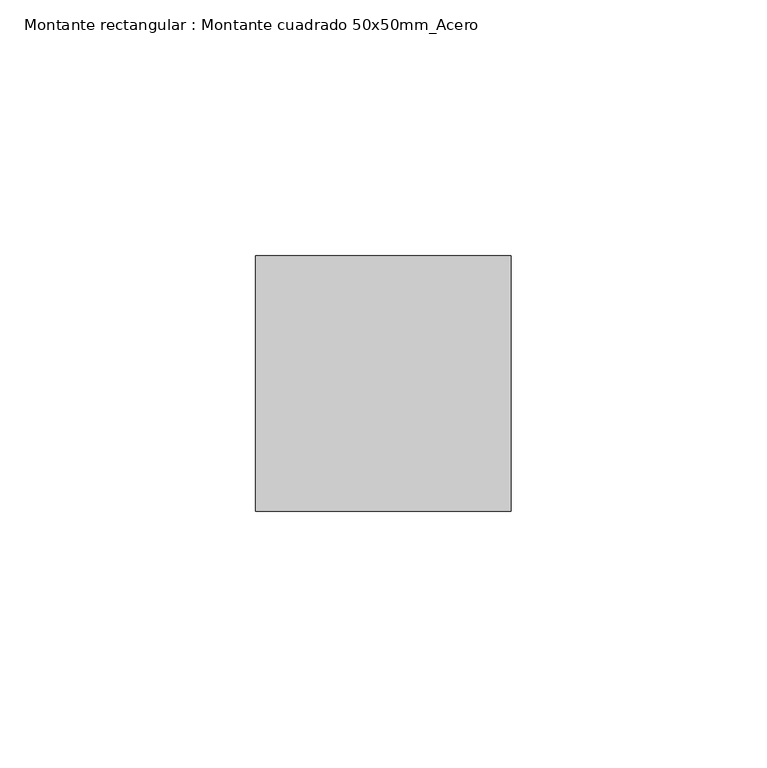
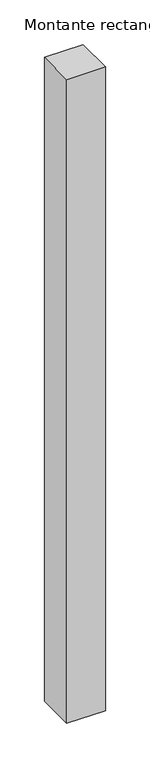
"""IFC4 building model written with IfcOpenShell, lengths in millimetres: member geometry, Montante rectangular : Montante cuadrado 50x50mm_Acero."""

import ifcopenshell
import ifcopenshell.guid

model = None  # the IFC model being written
_history = None  # IfcOwnerHistory: only IFC2X3 demands one
_inside = {}  # id of a spatial element -> (the spatial element, [elements in it])
_under = {}  # id of a project, library or spatial element -> (it, [spatial elements below it])
_declared = {}  # id of a project -> (the project, [libraries it declares])
_typed = {}  # id of a type object -> (the type object, [elements of that type])
_made_of = {}  # id of a material, layer set ... -> (it, [elements and type objects made of it])


def new_model(schema):
    """Start an empty IFC model of exactly this schema.

    Asked for "IFC4X3", IfcOpenShell would pick the latest addendum, in which some entities
    have other attributes; the version numbers below select the first issue.
    IFC2X3 requires an IfcOwnerHistory on every rooted entity: one is made here for all.
    """
    global model, _history
    if schema == "IFC4X3":
        model = ifcopenshell.file(schema_version=(4, 3, 0, 0))
    else:
        model = ifcopenshell.file(schema=schema)
    _inside.clear()
    _under.clear()
    _declared.clear()
    _typed.clear()
    _made_of.clear()
    _history = None
    if model.schema == "IFC2X3":
        org = make("IfcOrganization", Name="unknown")
        user = make(
            "IfcPersonAndOrganization",
            ThePerson=make("IfcPerson", FamilyName="unknown"),
            TheOrganization=org,
        )
        app = make(
            "IfcApplication",
            ApplicationDeveloper=org,
            Version="unknown",
            ApplicationFullName="unknown",
            ApplicationIdentifier="unknown",
        )
        _history = make(
            "IfcOwnerHistory",
            OwningUser=user,
            OwningApplication=app,
            ChangeAction="ADDED",
            CreationDate=0,
        )
    return model


def make(cls, **values):
    """One entity of the class cls with the attributes given. An attribute that is None is left unset."""
    return model.create_entity(
        cls, **{name: value for name, value in values.items() if value is not None}
    )


def rooted(cls, **values):
    """An entity with a GlobalId (a new one), such as an element, a storey or a relation."""
    return make(cls, GlobalId=ifcopenshell.guid.new(), OwnerHistory=_history, **values)


def si_unit(unit_type, name, prefix=None):
    """IfcSIUnit, for example si_unit("LENGTHUNIT", "METRE", prefix="MILLI")."""
    return make("IfcSIUnit", UnitType=unit_type, Prefix=prefix, Name=name)


def assignment(units):
    """IfcUnitAssignment: the units of a project."""
    return None if units is None else make("IfcUnitAssignment", Units=units)


def point(xyz):
    """IfcCartesianPoint."""
    return None if xyz is None else make("IfcCartesianPoint", Coordinates=xyz)


def direction(xyz):
    """IfcDirection."""
    return None if xyz is None else make("IfcDirection", DirectionRatios=xyz)


def frame(location, z_axis=None, x_axis=None):
    """IfcAxis2Placement3D, a coordinate frame: its origin and axes. An axis left out is left unset."""
    return make(
        "IfcAxis2Placement3D",
        Location=point(location),
        Axis=direction(z_axis),
        RefDirection=direction(x_axis),
    )


def origin():
    """The frame at (0, 0, 0) with its axes left unset."""
    return frame((0.0, 0.0, 0.0))


def place(relative_to, where):
    """IfcLocalPlacement: puts the frame where relative to a parent placement (None: the world)."""
    return make(
        "IfcLocalPlacement", PlacementRelTo=relative_to, RelativePlacement=where
    )


def context(
    kind, dimensions, precision=None, world=None, true_north=None, identifier=None
):
    """IfcGeometricRepresentationContext, for example the 3D "Model" context."""
    return make(
        "IfcGeometricRepresentationContext",
        ContextIdentifier=identifier,
        ContextType=kind,
        CoordinateSpaceDimension=dimensions,
        Precision=precision,
        WorldCoordinateSystem=world,
        TrueNorth=true_north,
    )


def project(units=None, contexts=None):
    """IfcProject with its units and contexts."""
    return rooted(
        "IfcProject",
        Name="project",
        RepresentationContexts=contexts,
        UnitsInContext=assignment(units),
    )


def spatial(cls, under=None, at=None, **own):
    """A site, building, storey or space (cls), placed at a placement, below another one or the project."""
    s = rooted(cls, ObjectPlacement=at, **own)
    if under is not None:
        _under.setdefault(under.id(), (under, []))[1].append(s)
    return s


def polyline(points):
    """IfcPolyline through the points."""
    return make("IfcPolyline", Points=[point(p) for p in points])


def outline(outer, holes=None, kind="AREA"):
    """IfcArbitraryClosedProfileDef: a profile drawn as a closed curve; with holes, ...WithVoids."""
    if holes is None:
        return make("IfcArbitraryClosedProfileDef", ProfileType=kind, OuterCurve=outer)
    return make(
        "IfcArbitraryProfileDefWithVoids",
        ProfileType=kind,
        OuterCurve=outer,
        InnerCurves=holes,
    )


def extrude(swept, where, along, depth):
    """IfcExtrudedAreaSolid: the profile swept, set in the frame where, extruded along a direction by depth."""
    return make(
        "IfcExtrudedAreaSolid",
        SweptArea=swept,
        Position=where,
        ExtrudedDirection=direction(along),
        Depth=depth,
    )


def shape(context_of_items, identifier, shape_type, items):
    """IfcShapeRepresentation: the items that make up one representation, for example the "Body"."""
    return make(
        "IfcShapeRepresentation",
        ContextOfItems=context_of_items,
        RepresentationIdentifier=identifier,
        RepresentationType=shape_type,
        Items=items,
    )


def source(mapping_origin, context_of_items, identifier, shape_type, items):
    """IfcRepresentationMap: a shape defined once, which mapped items show again and again."""
    return make(
        "IfcRepresentationMap",
        MappingOrigin=mapping_origin,
        MappedRepresentation=shape(context_of_items, identifier, shape_type, items),
    )


def transform(
    local_origin,
    x_axis=None,
    y_axis=None,
    z_axis=None,
    scale=None,
    scale2=None,
    scale3=None,
    uniform=True,
):
    """IfcCartesianTransformationOperator3D, or its non-uniform kind. x_axis, y_axis, z_axis: its Axis1, 2, 3."""
    if uniform:
        return make(
            "IfcCartesianTransformationOperator3D",
            Axis1=direction(x_axis),
            Axis2=direction(y_axis),
            LocalOrigin=point(local_origin),
            Scale=scale,
            Axis3=direction(z_axis),
        )
    return make(
        "IfcCartesianTransformationOperator3DnonUniform",
        Axis1=direction(x_axis),
        Axis2=direction(y_axis),
        LocalOrigin=point(local_origin),
        Scale=scale,
        Axis3=direction(z_axis),
        Scale2=scale2,
        Scale3=scale3,
    )


def mapped(mapping_source, mapping_target):
    """IfcMappedItem: shows the shape of a source again, moved by a transform."""
    return make(
        "IfcMappedItem", MappingSource=mapping_source, MappingTarget=mapping_target
    )


def made_of(thing, what):
    """Note that an element or type object is made of a material, layer set ...; save() writes the relation."""
    if what is not None:
        _made_of.setdefault(what.id(), (what, []))[1].append(thing)
    return thing


def element(
    cls,
    number,
    at=None,
    inside=None,
    cuts=None,
    type_object=None,
    material=None,
    context=None,
    identifier="Body",
    shape_type=None,
    held_by="IfcProductDefinitionShape",
    body=None,
    shapes=None,
    **own,
):
    """One element of the class cls, such as IfcWall. Its Tag is "e" and its number.

    at: its placement. inside: the storey or other place that contains it. cuts: it is an
    opening in that element (IfcRelVoidsElement). A single representation is given by context,
    identifier, shape_type and body (its items); several are given by shapes. held_by: the class
    of the entity that holds the representations. save() writes the other relations.
    """
    e = rooted(cls, Tag="e%d" % number, ObjectPlacement=at, **own)
    if body is not None:
        shapes = [shape(context, identifier, shape_type, body)]
    if shapes is not None:
        e.Representation = make(held_by, Representations=shapes)
    if inside is not None:
        _inside.setdefault(inside.id(), (inside, []))[1].append(e)
    if cuts is not None:
        rooted(
            "IfcRelVoidsElement", RelatingBuildingElement=cuts, RelatedOpeningElement=e
        )
    if type_object is not None:
        _typed.setdefault(type_object.id(), (type_object, []))[1].append(e)
    return made_of(e, material)


def aggregate(whole, parts):
    """IfcRelAggregates: a whole, such as a stair, and the parts it consists of."""
    return rooted("IfcRelAggregates", RelatingObject=whole, RelatedObjects=parts)


def save(model, path):
    """Write the relations noted so far, then the file.

    IfcRelAggregates (storeys below a building ...), IfcRelContainedInSpatialStructure (elements
    in a storey), IfcRelDefinesByType, IfcRelAssociatesMaterial and IfcRelDeclares: one each for
    every whole, place, type object, material and project.
    """
    for whole, parts in _under.values():
        aggregate(whole, parts)
    for where, things in _inside.values():
        rooted(
            "IfcRelContainedInSpatialStructure",
            RelatedElements=things,
            RelatingStructure=where,
        )
    for kind, things in _typed.values():
        rooted("IfcRelDefinesByType", RelatedObjects=things, RelatingType=kind)
    for what, things in _made_of.values():
        rooted("IfcRelAssociatesMaterial", RelatedObjects=things, RelatingMaterial=what)
    for by, libraries in _declared.values():
        rooted("IfcRelDeclares", RelatingContext=by, RelatedDefinitions=libraries)
    model.write(path)


def montante_rectangular_montante_cuadrado_50x50mm_acero_4420a79e(model_context):
    return source(origin(), model_context, "Body", "SweptSolid", [
        extrude(outline(polyline([(-50.0, 0.0), (-50.0, 50.0), (0.0, 50.0), (0.0, 0.0), (-50.0, 0.0)])), frame((0.0, 0.0, -880.0), z_axis=(0.0, 0.0, 1.0), x_axis=(1.0, 0.0, 0.0)), (0.0, 0.0, 1.0), 880.0),
    ])


if __name__ == "__main__":
    model = new_model("IFC4")
    model_context = context("Model", 3, world=origin())
    ifc_project = project(units=[si_unit("LENGTHUNIT", "METRE", prefix="MILLI")], contexts=[model_context])
    site = spatial("IfcSite", under=ifc_project)
    building = spatial("IfcBuilding", under=site)
    placement = place(None, origin())
    montante_rectangular_montante_cuadrado_50x50mm_acero_shape = montante_rectangular_montante_cuadrado_50x50mm_acero_4420a79e(model_context)
    element("IfcMember", 1, ObjectType="Montante rectangular : Montante cuadrado 50x50mm_Acero", at=placement, inside=building, context=model_context, shape_type="MappedRepresentation", body=[
        mapped(montante_rectangular_montante_cuadrado_50x50mm_acero_shape, transform((0.0, 0.0, 0.0), x_axis=(1.0, 0.0, 0.0), y_axis=(0.0, 1.0, 0.0), z_axis=(0.0, 0.0, 1.0))),
    ])
    save(model, "model.ifc")
